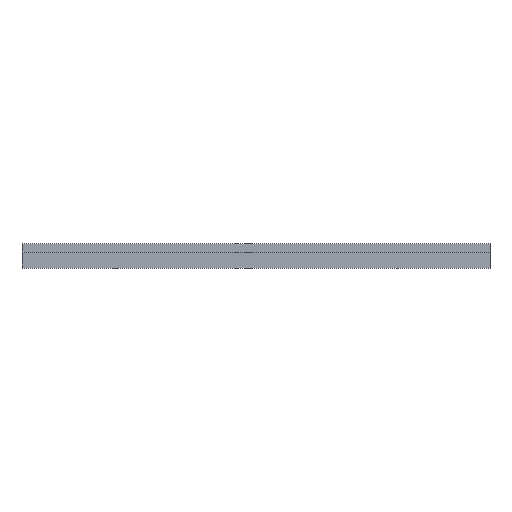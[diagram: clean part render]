
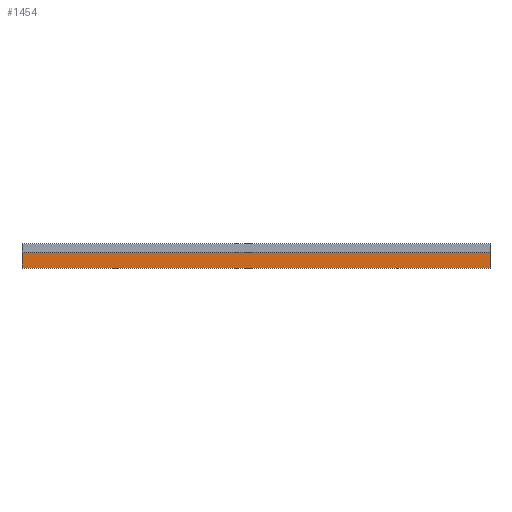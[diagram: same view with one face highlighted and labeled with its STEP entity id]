
A CAD part, front view. The second image highlights one B-rep face of the part: STEP entity #1454.
In plain terms, the highlighted planar face has unit normal (0, -1, 0).
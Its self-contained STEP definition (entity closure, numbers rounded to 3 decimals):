
#32=PLANE('',#1567);
#89=FACE_OUTER_BOUND('',#166,.T.);
#166=EDGE_LOOP('',(#1069,#1070,#1071,#1072));
#269=LINE('',#2237,#428);
#270=LINE('',#2240,#429);
#271=LINE('',#2242,#430);
#272=LINE('',#2243,#431);
#428=VECTOR('',#1804,10.);
#429=VECTOR('',#1807,10.);
#430=VECTOR('',#1808,10.);
#431=VECTOR('',#1809,10.);
#646=VERTEX_POINT('',#2233);
#647=VERTEX_POINT('',#2235);
#648=VERTEX_POINT('',#2239);
#649=VERTEX_POINT('',#2241);
#817=EDGE_CURVE('',#646,#647,#269,.T.);
#818=EDGE_CURVE('',#646,#648,#270,.T.);
#819=EDGE_CURVE('',#649,#647,#271,.T.);
#820=EDGE_CURVE('',#648,#649,#272,.T.);
#1069=ORIENTED_EDGE('',*,*,#818,.F.);
#1070=ORIENTED_EDGE('',*,*,#817,.T.);
#1071=ORIENTED_EDGE('',*,*,#819,.F.);
#1072=ORIENTED_EDGE('',*,*,#820,.F.);
#1454=ADVANCED_FACE('',(#89),#32,.T.);
#1567=AXIS2_PLACEMENT_3D('',#2238,#1805,#1806);
#1804=DIRECTION('',(1.,0.,0.));
#1805=DIRECTION('center_axis',(0.,-1.,0.));
#1806=DIRECTION('ref_axis',(0.,0.,-1.));
#1807=DIRECTION('',(0.,0.,1.));
#1808=DIRECTION('',(0.,0.,-1.));
#1809=DIRECTION('',(1.,0.,0.));
#2233=CARTESIAN_POINT('',(0.,-10.1,0.5));
#2235=CARTESIAN_POINT('',(1000.,-10.1,0.5));
#2237=CARTESIAN_POINT('',(0.,-10.1,0.5));
#2238=CARTESIAN_POINT('Origin',(0.,-10.1,
34.));
#2239=CARTESIAN_POINT('',(0.,-10.1,34.));
#2240=CARTESIAN_POINT('',(0.,-10.1,0.5));
#2241=CARTESIAN_POINT('',(1000.,-10.1,34.));
#2242=CARTESIAN_POINT('',(1000.,-10.1,0.5));
#2243=CARTESIAN_POINT('',(0.,-10.1,34.));
